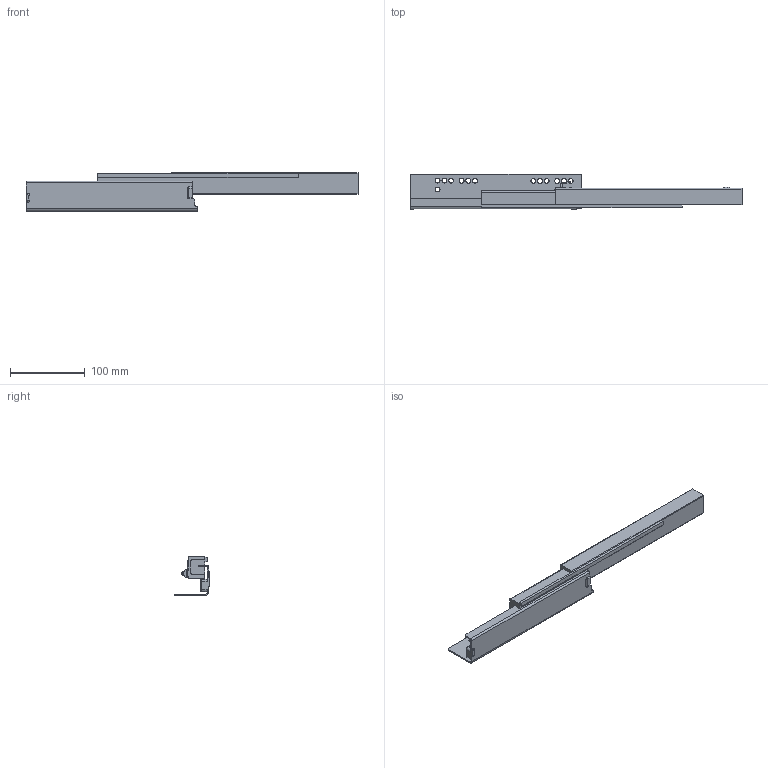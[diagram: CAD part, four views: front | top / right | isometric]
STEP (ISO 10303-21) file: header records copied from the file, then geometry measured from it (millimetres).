
FILE_DESCRIPTION (( 'STEP AP203' ), '1' );
FILE_NAME ('HT102704H-R(´ò¿ª).STEP', '2021-07-31T01:13:45', ( 'Users' ), ( 'Microsoft' ), 'SwSTEP 2.0', 'SolidWorks 2018', '' );
FILE_SCHEMA (( 'CONFIG_CONTROL_DESIGN' ));
Length unit declared in the file: millimetre
Products named in the file (1): HT102704H-R(湖羲)
Bounding box: 444.3 x 47.5 x 51.73 mm (x, y, z)
Volume: 266881.2 mm3; surface area: 81565.1 mm2
Topology: 1 solids, 2 shells, 202 faces, 533 edges, 335 vertices
Faces by surface type: cylinder 89, plane 67, cone 32, torus 12, sphere 2
Entity records: 6384 total; most frequent: DIRECTION 1158, CARTESIAN_POINT 1084, ORIENTED_EDGE 1062, EDGE_CURVE 531, AXIS2_PLACEMENT_3D 429, VERTEX_POINT 335, VECTOR 300, LINE 300
